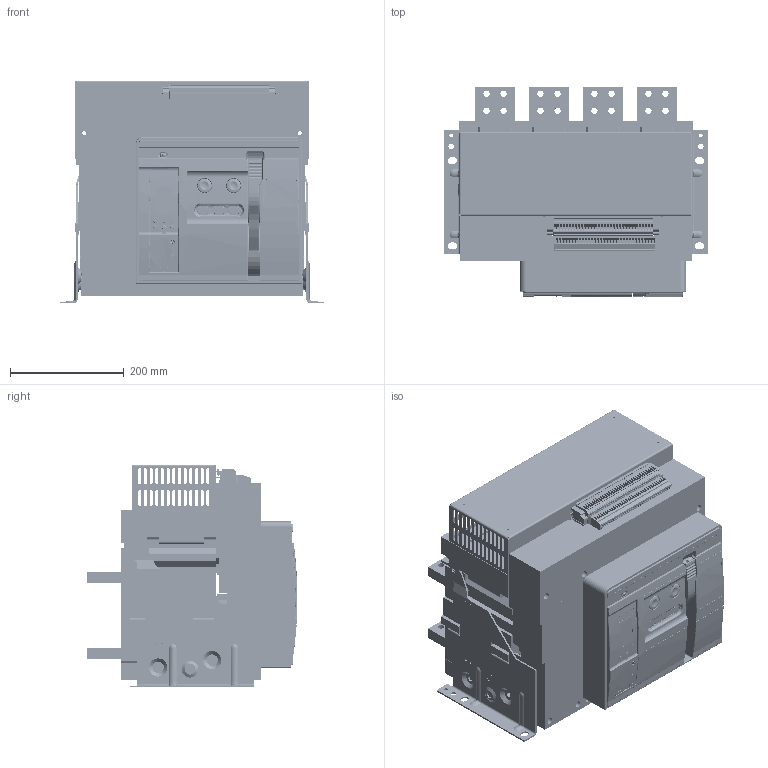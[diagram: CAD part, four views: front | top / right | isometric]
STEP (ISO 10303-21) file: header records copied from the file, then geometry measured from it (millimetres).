
FILE_DESCRIPTION(/* description */ (''),/* implementation_level */ '2;1');
FILE_NAME(/* name */ 'C:/Users/carlos.gonzalez/Documents/ADRIAN_TEMP_DRAWING/Ex9A25_4P_2500_F_PB_Drawing.step',/* time_stamp */ '2021-10-14T12:41:39+02:00',/* author */ (''),/* organization */ (''),/* preprocessor_version */ 'ST-DEVELOPER v18.1',/* originating_system */ 'Autodesk Translation Framework v10.10.0.1391',/* authorisation */ '');
FILE_SCHEMA (('AUTOMOTIVE_DESIGN { 1 0 10303 214 3 1 1 }'));
Products named in the file (38): Ex9A25_4P_2500_F; Ex9A25; Auxiliary terminals; EX9A25-GDS-DZ_ASM; 8060A03101011; UKK_3-SELECT-81050_1; D_UKK_3_5-SELECT-6580; 0800886_E-NS-35-N_SELECT; Main terminals; 8580A0412108; Internal components; 2500-JIZUO-4P; 2500-DIBAN-4P; 8300A0306006; 8300A0101134; 8060A0306108; 8060A0306109; 8ZTD_123_167_A; 8ZTD_123_166_A; Cover; 5300A15261172_ASM; 8300A0101133; 8860A0724001; 8235A0101103; 8253A0101002; 8282A0820014; 8320A0101121-0814; 8860A1424194; 8253A0101106-1; 8253A0101107-1; 8ZTD_282_1203_AF1; 8253A0101010; 8253A0101108-1; Smart unit; 8005A0101008; 8320A0101004; 5043A0101001; 8860A1424009
Assembly tree (79 placements, depth 5):
  Ex9A25_4P_2500_F
    Ex9A25
      Auxiliary terminals
        EX9A25-GDS-DZ_ASM
          8060A03101011
          0800886_E-NS-35-N_SELECT  x2
          UKK_3-SELECT-81050_1  x34
          D_UKK_3_5-SELECT-6580
      Main terminals
        8580A0412108  x8
      Internal components
        2500-JIZUO-4P
        2500-DIBAN-4P
        8300A0306006
        8300A0101134
        8060A0306108
        8060A0306109
        8ZTD_123_167_A
        8ZTD_123_166_A
      Cover
        5300A15261172_ASM
          8300A0101133
          8860A0724001
          8235A0101103
          8253A0101002
          8282A0820014
          8320A0101121-0814
          8860A1424194
          8253A0101106-1
          8253A0101107-1
          8ZTD_282_1203_AF1  x2
        8253A0101010
        8253A0101108-1
      Smart unit
        8005A0101008
        8320A0101004
        5043A0101001
        8860A1424009
Bounding box: 465 x 370.99 x 392 mm (x, y, z)
Volume: 21667654.8 mm3; surface area: 2817086.6 mm2
Topology: 71 solids, 94 shells, 14690 faces, 39754 edges, 26100 vertices
Faces by surface type: plane 11960, cylinder 2016, bspline 276, torus 229, cone 138, sphere 71
Full cylindrical faces by diameter (mm): 2 x7, 2.1 x2, 2.5 x3, 2.6 x2, 3 x11, 3.5 x11, 4 x12, 4.2 x4, 4.3 x1, 4.5 x2, 5 x16, 5.008 x1, 6 x8, 6.1 x1, 6.2 x4, 6.5 x7, 7 x9, 8 x4, 8.3 x2, 8.5 x36, 9 x2, 10 x16, 11 x32, 12 x8, 12.5 x1, 14 x1, 15 x1, 16 x1, 17 x1, 18 x2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
Entity records: 225714 total; most frequent: CARTESIAN_POINT 85949, ORIENTED_EDGE 29470, DIRECTION 27440, EDGE_CURVE 14760, LINE 10854, VECTOR 10854, VERTEX_POINT 9624, AXIS2_PLACEMENT_3D 8293
